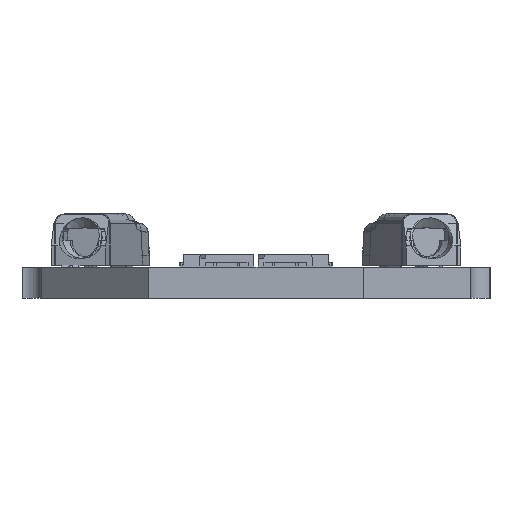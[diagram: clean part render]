
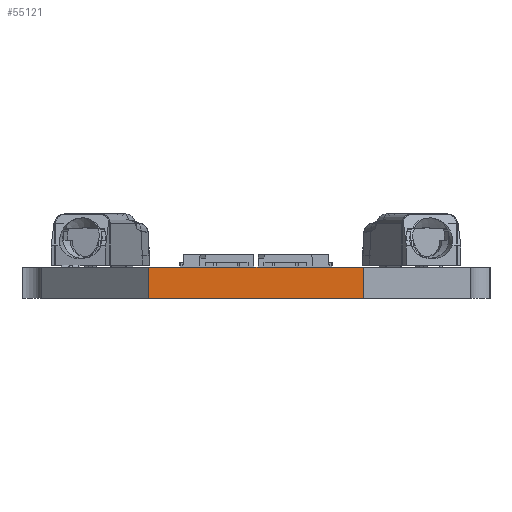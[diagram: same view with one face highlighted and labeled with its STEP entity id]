
A CAD part, left-side view. The second image highlights one B-rep face of the part: STEP entity #55121.
In plain terms, the highlighted planar face has unit normal (-1, 0, 0).
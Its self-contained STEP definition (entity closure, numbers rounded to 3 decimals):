
#3046=ORIENTED_EDGE('',*,*,#14458,.F.);
#3047=ORIENTED_EDGE('',*,*,#15142,.F.);
#3048=ORIENTED_EDGE('',*,*,#15064,.T.);
#3049=ORIENTED_EDGE('',*,*,#15126,.T.);
#14458=EDGE_CURVE('',#20558,#20559,#24652,.T.);
#15064=EDGE_CURVE('',#21165,#21164,#25119,.T.);
#15126=EDGE_CURVE('',#21164,#20559,#25156,.T.);
#15142=EDGE_CURVE('',#21165,#20558,#25172,.T.);
#20558=VERTEX_POINT('',#72630);
#20559=VERTEX_POINT('',#72632);
#21164=VERTEX_POINT('',#73843);
#21165=VERTEX_POINT('',#73845);
#24652=LINE('',#72631,#29588);
#25119=LINE('',#73844,#30055);
#25156=LINE('',#73968,#30092);
#25172=LINE('',#74006,#30108);
#29588=VECTOR('',#61014,1000.);
#30055=VECTOR('',#61761,1000.);
#30092=VECTOR('',#61882,1000.);
#30108=VECTOR('',#61942,1000.);
#34184=EDGE_LOOP('',(#3046,#3047,#3048,#3049));
#36536=FACE_BOUND('',#34184,.T.);
#38758=PLANE('',#57510);
#55121=ADVANCED_FACE('',(#36536),#38758,.T.);
#57510=AXIS2_PLACEMENT_3D('',#74005,#61940,#61941);
#61014=DIRECTION('',(0.,-1.,0.));
#61761=DIRECTION('',(0.,-1.,0.));
#61882=DIRECTION('',(0.,0.,1.));
#61940=DIRECTION('',(-1.,0.,0.));
#61941=DIRECTION('',(0.,0.,1.));
#61942=DIRECTION('',(0.,0.,1.));
#72630=CARTESIAN_POINT('',(-279.,5.5,0.));
#72631=CARTESIAN_POINT('',(-279.,5.5,0.));
#72632=CARTESIAN_POINT('',(-279.,-5.5,0.));
#73843=CARTESIAN_POINT('',(-279.,-5.5,-1.6));
#73844=CARTESIAN_POINT('',(-279.,5.5,-1.6));
#73845=CARTESIAN_POINT('',(-279.,5.5,-1.6));
#73968=CARTESIAN_POINT('',(-279.,-5.5,-1.6));
#74005=CARTESIAN_POINT('',(-279.,5.5,-1.6));
#74006=CARTESIAN_POINT('',(-279.,5.5,-1.6));
